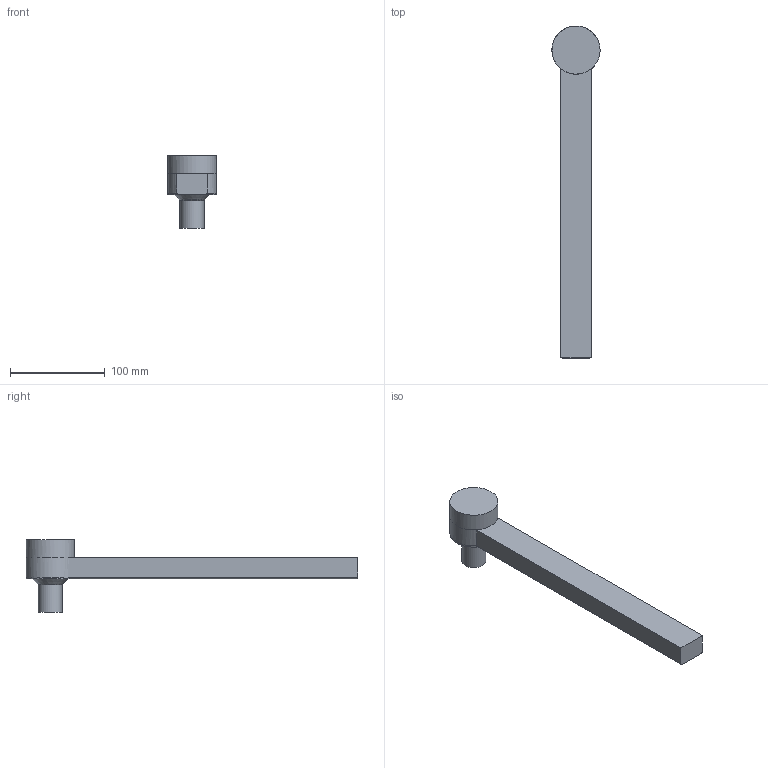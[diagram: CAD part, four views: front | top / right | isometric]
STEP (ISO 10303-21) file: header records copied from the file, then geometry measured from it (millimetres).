
FILE_DESCRIPTION(/* description */ (''),/* implementation_level */ '2;1');
FILE_NAME(/* name */ 'B0191TRUPas.stp',/* time_stamp */ '2019-10-02T07:56:55-04:00',/* author */ (''),/* organization */ (''),/* preprocessor_version */ 'ST-DEVELOPER v16',/* originating_system */ 'SIEMENS PLM Software NX 11.0',/* authorisation */ '');
FILE_SCHEMA (('AUTOMOTIVE_DESIGN { 1 0 10303 214 3 1 1 1 }'));
Length unit declared in the file: inch
Products named in the file (3): B0191TRUPd; B01XX_SubSolid; B0191TRUPas
Assembly tree (2 placements, depth 2):
  B0191TRUPas
    B01XX_SubSolid
    B0191TRUPd
Bounding box: 50.91 x 350.87 x 76.99 mm (x, y, z)
Volume: 372625.8 mm3; surface area: 57799.7 mm2
Topology: 2 solids, 3 shells, 32 faces, 68 edges, 43 vertices
Faces by surface type: plane 13, cylinder 9, cone 5, torus 3, sphere 1, revolution 1
Full cylindrical faces by diameter (mm): 8.731 x2, 25.4 x2, 50.927 x1
Entity records: 834 total; most frequent: CARTESIAN_POINT 161, DIRECTION 134, ORIENTED_EDGE 92, AXIS2_PLACEMENT_3D 58, EDGE_LOOP 50, EDGE_CURVE 46, FACE_BOUND 41, VERTEX_POINT 38
